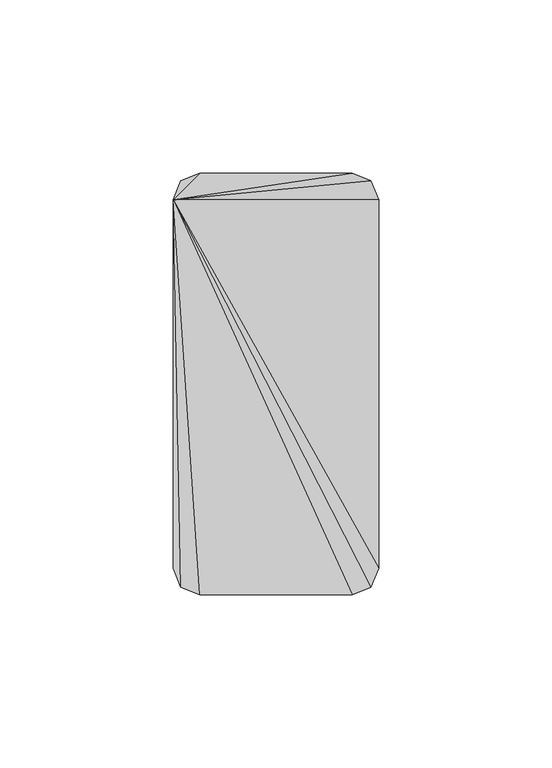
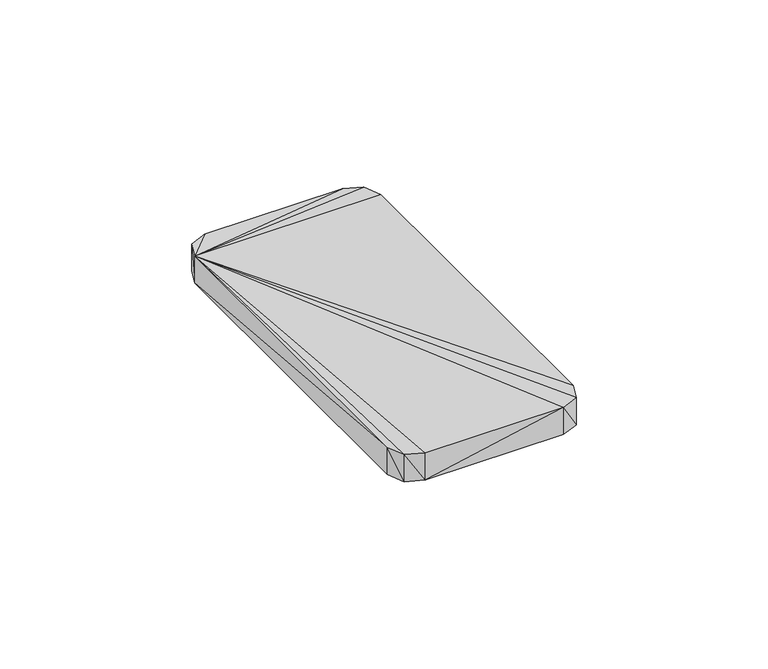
"""IFC4 building model written with IfcOpenShell, lengths in millimetres: geographic element geometry, Enscape AssetDefinition - Smartphone : Enscape AssetDefinition - Smartphone."""

from ifc_helpers import new_model, si_unit, origin, place, context, project, spatial, faceted_brep, source, transform, mapped, element, save


def geographic_element_bb5f4fa1(model_context):
    return source(origin(), model_context, "Body", "Brep", [
        faceted_brep([(22.0570005, -60.9569997, 9.1460003), (-22.0570005, -60.9569997, 0.0), (22.0570005, -60.9569997, 0.0), (-22.0570005, -60.9569997, 9.1460003), (-27.4749994, -58.7130003, 0.0), (-27.4749994, -58.7130003, 9.1460003), (-29.7190007, 53.2950014, 9.1460003), (27.4749994, -58.7130003, 9.1460003), (27.4749994, -58.7130003, 0.0), (-29.7190007, -53.2950014, 9.1460003), (-29.7190007, -53.2950014, 0.0), (-29.7190007, 53.2950014, 0.0), (-27.4749994, 58.7130003, 0.0), (-27.4749994, 58.7130003, 9.1460003), (-22.0570005, 60.9569997, 0.0), (-22.0570005, 60.9569997, 9.1460003), (22.0570005, 60.9569997, 0.0), (22.0570005, 60.9569997, 9.1460003), (27.4749994, 58.7130003, 0.0), (27.4749994, 58.7130003, 9.1460003), (29.7190007, -53.2950014, 9.1460003), (29.7190007, 53.2950014, 9.1460003), (29.7190007, 53.2950014, 0.0), (29.7190007, -53.2950014, 0.0)], [[[0, 1, 2]], [[3, 1, 0]], [[4, 2, 1]], [[5, 1, 3]], [[4, 1, 5]], [[0, 6, 3]], [[7, 6, 0]], [[8, 0, 2]], [[7, 0, 8]], [[3, 6, 5]], [[5, 6, 9]], [[9, 4, 5]], [[10, 2, 4]], [[10, 4, 9]], [[9, 11, 10]], [[6, 11, 9]], [[11, 2, 10]], [[12, 2, 11]], [[11, 13, 12]], [[6, 13, 11]], [[14, 2, 12]], [[12, 15, 14]], [[13, 15, 12]], [[6, 15, 13]], [[15, 16, 14]], [[17, 16, 15]], [[15, 6, 17]], [[16, 2, 14]], [[18, 2, 16]], [[19, 16, 17]], [[18, 16, 19]], [[17, 6, 19]], [[20, 6, 7]], [[21, 6, 20]], [[19, 6, 21]], [[21, 18, 19]], [[22, 2, 18]], [[22, 18, 21]], [[21, 23, 22]], [[20, 23, 21]], [[20, 7, 23]], [[23, 7, 8]], [[23, 2, 22]], [[2, 23, 8]]]),
    ])


if __name__ == "__main__":
    model = new_model("IFC4")
    model_context = context("Model", 3, world=origin())
    ifc_project = project(units=[si_unit("LENGTHUNIT", "METRE", prefix="MILLI")], contexts=[model_context])
    site = spatial("IfcSite", under=ifc_project)
    building = spatial("IfcBuilding", under=site)
    placement = place(None, origin())
    geographic_element_shape = geographic_element_bb5f4fa1(model_context)
    element("IfcGeographicElement", 1, ObjectType="Enscape AssetDefinition - Smartphone : Enscape AssetDefinition - Smartphone", at=placement, inside=building, context=model_context, shape_type="MappedRepresentation", body=[
        mapped(geographic_element_shape, transform((0.0, 0.0, 0.0), x_axis=(1.0, 0.0, 0.0), y_axis=(0.0, 1.0, 0.0), z_axis=(0.0, 0.0, 1.0))),
    ])
    save(model, "model.ifc")
